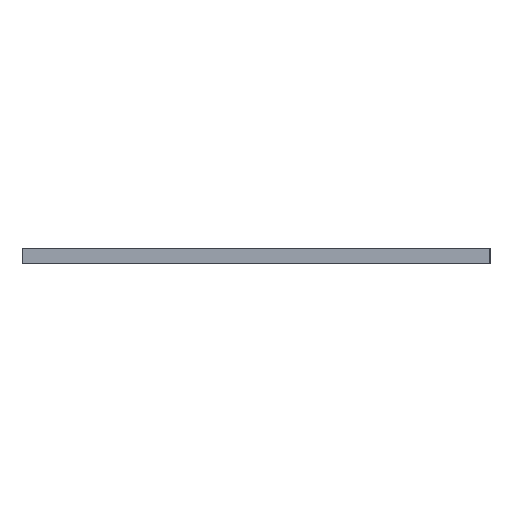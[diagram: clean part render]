
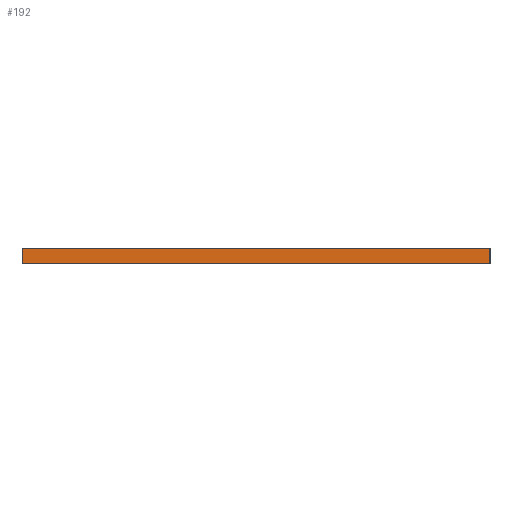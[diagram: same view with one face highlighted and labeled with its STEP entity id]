
A CAD part, left-side view. The second image highlights one B-rep face of the part: STEP entity #192.
In plain terms, the highlighted planar face has unit normal (-1, 0, 0).
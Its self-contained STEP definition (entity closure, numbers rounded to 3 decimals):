
#20=FACE_OUTER_BOUND('',#32,.T.);
#32=EDGE_LOOP('',(#141,#142,#143,#144));
#43=LINE('',#286,#67);
#47=LINE('',#295,#71);
#49=LINE('',#298,#73);
#51=LINE('',#301,#75);
#67=VECTOR('',#234,10.);
#71=VECTOR('',#240,10.);
#73=VECTOR('',#244,10.);
#75=VECTOR('',#248,10.);
#91=VERTEX_POINT('',#283);
#92=VERTEX_POINT('',#285);
#95=VERTEX_POINT('',#292);
#96=VERTEX_POINT('',#294);
#107=EDGE_CURVE('',#91,#92,#43,.T.);
#111=EDGE_CURVE('',#95,#96,#47,.T.);
#113=EDGE_CURVE('',#92,#95,#49,.T.);
#115=EDGE_CURVE('',#91,#96,#51,.T.);
#141=ORIENTED_EDGE('',*,*,#115,.T.);
#142=ORIENTED_EDGE('',*,*,#111,.F.);
#143=ORIENTED_EDGE('',*,*,#113,.F.);
#144=ORIENTED_EDGE('',*,*,#107,.F.);
#180=PLANE('',#219);
#192=ADVANCED_FACE('',(#20),#180,.F.);
#219=AXIS2_PLACEMENT_3D('',#300,#246,#247);
#234=DIRECTION('',(0.,-1.,0.));
#240=DIRECTION('',(0.,1.,0.));
#244=DIRECTION('',(0.,0.,-1.));
#246=DIRECTION('center_axis',(1.,0.,0.));
#247=DIRECTION('ref_axis',(0.,0.,-1.));
#248=DIRECTION('',(0.,0.,-1.));
#283=CARTESIAN_POINT('',(-10.9,-45.5,-2.9));
#285=CARTESIAN_POINT('',(-10.9,-48.5,-2.9));
#286=CARTESIAN_POINT('',(-10.9,-47.,-2.9));
#292=CARTESIAN_POINT('',(-10.9,-48.5,-3.));
#294=CARTESIAN_POINT('',(-10.9,-45.5,-3.));
#295=CARTESIAN_POINT('',(-10.9,-47.,-3.));
#298=CARTESIAN_POINT('',(-10.9,-48.5,-2.95));
#300=CARTESIAN_POINT('Origin',(-10.9,-47.,-2.95));
#301=CARTESIAN_POINT('',(-10.9,-45.5,-2.95));
